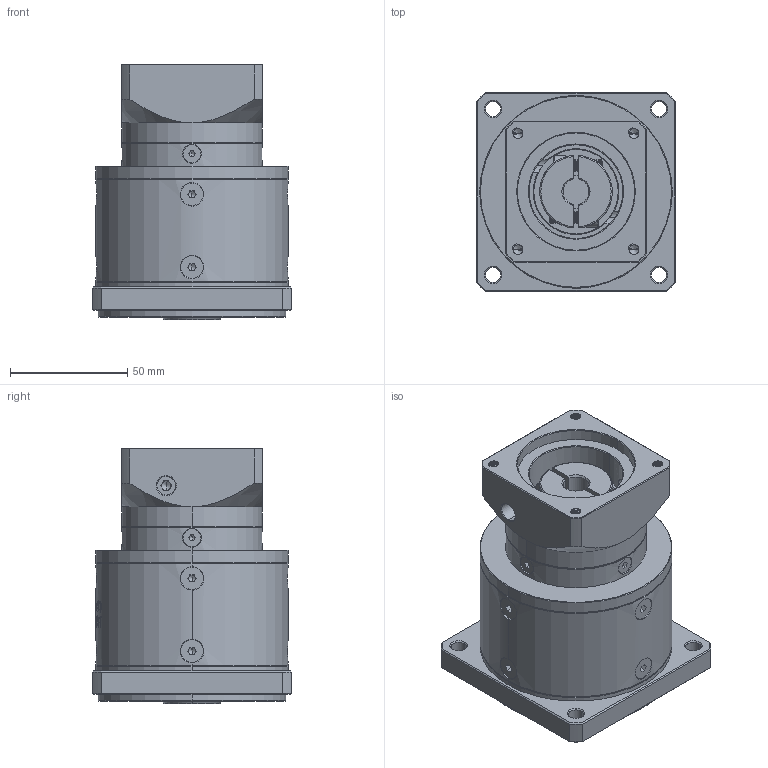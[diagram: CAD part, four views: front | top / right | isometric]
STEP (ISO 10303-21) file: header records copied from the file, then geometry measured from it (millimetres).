
FILE_DESCRIPTION (( 'STEP AP214' ), '1' );
FILE_NAME ('ZF080-K15-L2-P2-11-50-70-M5.step', '2023-08-19T06:58:35', ( '' ), ( '' ), 'SwSTEP 2.0', 'SolidWorks 2016', '' );
FILE_SCHEMA (( 'AUTOMOTIVE_DESIGN' ));
Length unit declared in the file: millimetre
Products named in the file (1): ZF080-K15-L2-P2-11-50-70-M5
Bounding box: 85 x 85 x 109 mm (x, y, z)
Volume: 452019.3 mm3; surface area: 66787.6 mm2
Topology: 18 solids, 18 shells, 2270 faces, 5995 edges, 3825 vertices
Faces by surface type: plane 1118, cylinder 401, bspline 390, cone 321, torus 40
Entity records: 120252 total; most frequent: CARTESIAN_POINT 43995, ORIENTED_EDGE 11918, DIRECTION 8939, EDGE_CURVE 5959, VERTEX_POINT 3825, LINE 3173, VECTOR 3173, AXIS2_PLACEMENT_3D 2883
